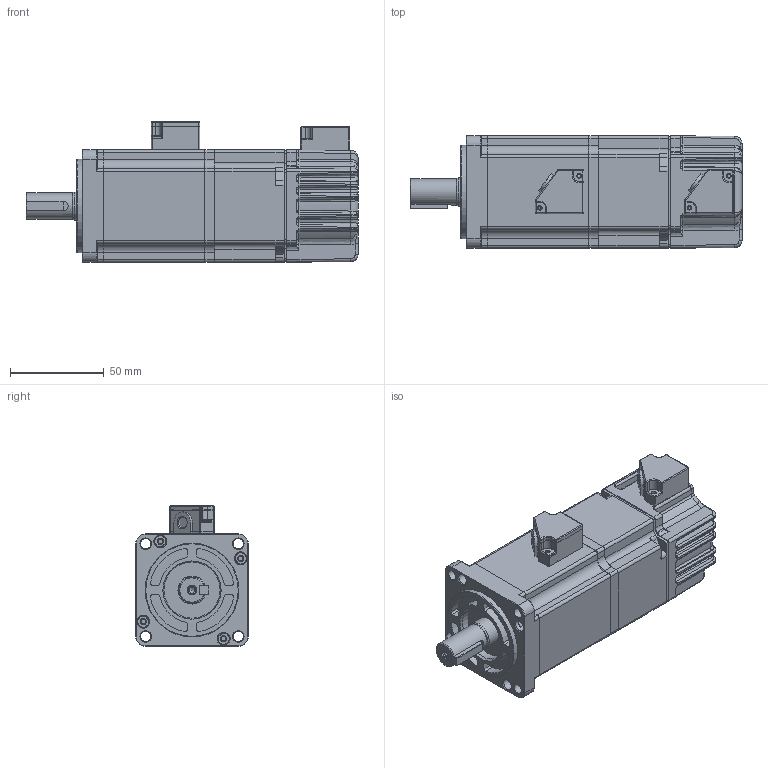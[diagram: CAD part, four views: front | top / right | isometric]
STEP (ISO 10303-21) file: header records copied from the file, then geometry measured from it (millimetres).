
FILE_DESCRIPTION( ( 'Unknown' ), '1' );
FILE_NAME( 'C:/Documents and Settings/chasechiu/桌面/KM/TSC06_3D_brake without connect/DTSC06201C3BGUD0K.stp', 'Unknown', ( 'Unknown' ), ( 'Unknown' ), 'PSStep 14.0', 'Unknown', ' ' );
FILE_SCHEMA( ( 'AUTOMOTIVE_DESIGN { 1 0 10303 214 1 1 1 1 }' ) );
Length unit declared in the file: millimetre
Products named in the file (17): 0S140E1203822-00; 0S152W6A15H01-00-oa1; 0S180ESC3BAUP-02; 0S331ESA0B20P-02; 0S871WHPPCN20-02-oa0; 0S200ES00000F-00; 0S211ES00000F-00; Assem1; 0S871WHPPCN20-02; 0S302E0A1B30P-01; 0S363E6037PBP-01; 0S301E0A0B30P-01; 0S362E6038PB1-00; 0S861EB152211-00; 0S152W6A15H01-00; 0987-; 0Y204E0520001-00
Assembly tree (16 placements, depth 4):
  Assem1
    0S871WHPPCN20-02
    0S302E0A1B30P-01
    0S363E6037PBP-01
    0S301E0A0B30P-01
    0S362E6038PB1-00
    0S861EB152211-00
    0S152W6A15H01-00
    0987-
    0Y204E0520001-00
    0S180ESC3BAUP-02
      0S331ESA0B20P-02
      0S871WHPPCN20-02-oa0
      0S140E1203822-00
        0S152W6A15H01-00-oa1
    0S200ES00000F-00
      0S211ES00000F-00
Bounding box: 177.3 x 60 x 75 mm (x, y, z)
Volume: 490743.2 mm3; surface area: 99473.8 mm2
Topology: 13 solids, 14 shells, 1169 faces, 2920 edges, 1737 vertices
Faces by surface type: cylinder 421, plane 367, bspline 214, cone 93, torus 43, sphere 31
Full cylindrical faces by diameter (mm): 1.567 x4, 2.013 x2, 2.2 x2, 2.3 x2, 2.459 x12, 2.5 x10, 3.242 x1, 3.3 x8, 3.5 x12, 4.2 x1, 5.5 x4, 5.8 x2, 6 x8, 14 x1, 14.8 x1, 14.9 x1, 15 x1, 26 x1, 30 x1, 32 x1, 39 x1, 50 x1, 50.5 x1, 55.4 x1, 56 x2, 57.6 x4
Entity records: 56149 total; most frequent: CARTESIAN_POINT 20667, DIRECTION 5364, ORIENTED_EDGE 5294, EDGE_CURVE 2647, AXIS2_PLACEMENT_3D 2103, VERTEX_POINT 1673, EDGE_LOOP 1419, FACE_OUTER_BOUND 1257
